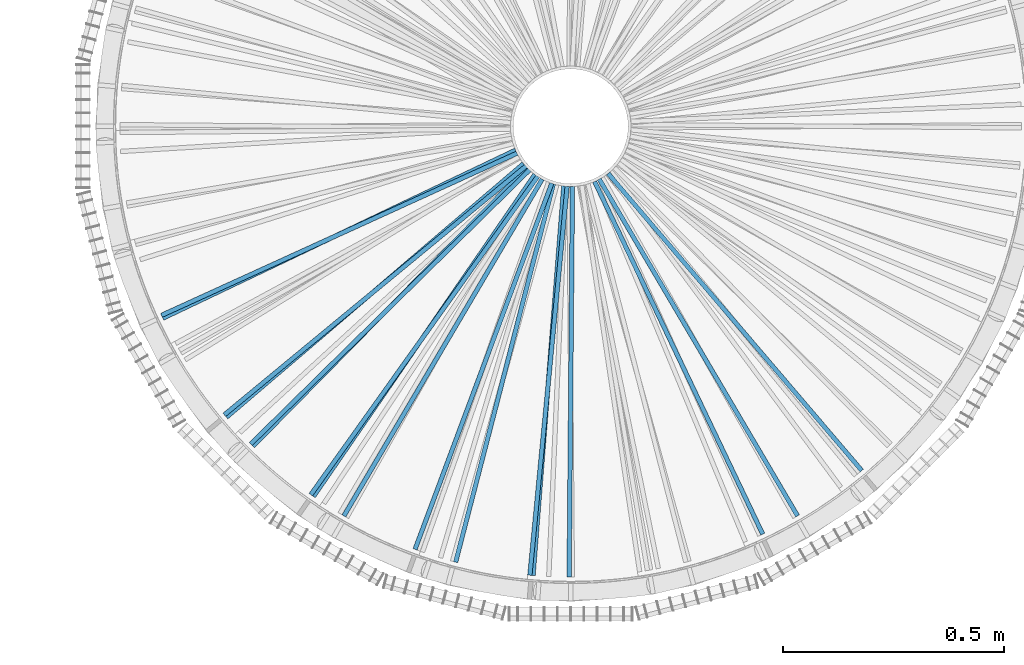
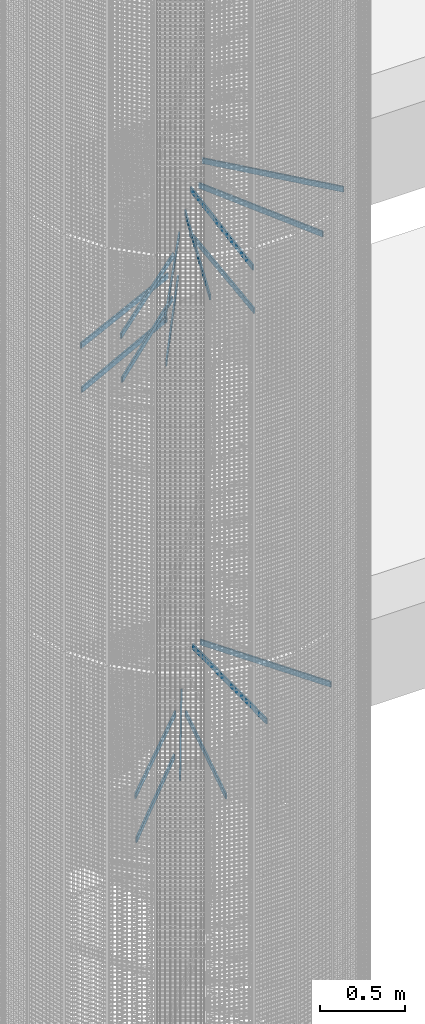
# One storey, part 177 of 1183: 17 beams, 2 elements without a shape of their own.
"""IFC2X3 building model written with IfcOpenShell, lengths in millimetres."""

import ifcopenshell
import ifcopenshell.guid

model = None  # the IFC model being written
_history = None  # IfcOwnerHistory: only IFC2X3 demands one
_inside = {}  # id of a spatial element -> (the spatial element, [elements in it])
_under = {}  # id of a project, library or spatial element -> (it, [spatial elements below it])
_declared = {}  # id of a project -> (the project, [libraries it declares])
_typed = {}  # id of a type object -> (the type object, [elements of that type])
_made_of = {}  # id of a material, layer set ... -> (it, [elements and type objects made of it])


def new_model(schema):
    """Start an empty IFC model of exactly this schema.

    Asked for "IFC4X3", IfcOpenShell would pick the latest addendum, in which some entities
    have other attributes; the version numbers below select the first issue.
    IFC2X3 requires an IfcOwnerHistory on every rooted entity: one is made here for all.
    """
    global model, _history
    if schema == "IFC4X3":
        model = ifcopenshell.file(schema_version=(4, 3, 0, 0))
    else:
        model = ifcopenshell.file(schema=schema)
    _inside.clear()
    _under.clear()
    _declared.clear()
    _typed.clear()
    _made_of.clear()
    _history = None
    if model.schema == "IFC2X3":
        org = make("IfcOrganization", Name="unknown")
        user = make(
            "IfcPersonAndOrganization",
            ThePerson=make("IfcPerson", FamilyName="unknown"),
            TheOrganization=org,
        )
        app = make(
            "IfcApplication",
            ApplicationDeveloper=org,
            Version="unknown",
            ApplicationFullName="unknown",
            ApplicationIdentifier="unknown",
        )
        _history = make(
            "IfcOwnerHistory",
            OwningUser=user,
            OwningApplication=app,
            ChangeAction="ADDED",
            CreationDate=0,
        )
    return model


def make(cls, **values):
    """One entity of the class cls with the attributes given. An attribute that is None is left unset."""
    return model.create_entity(
        cls, **{name: value for name, value in values.items() if value is not None}
    )


def rooted(cls, **values):
    """An entity with a GlobalId (a new one), such as an element, a storey or a relation."""
    return make(cls, GlobalId=ifcopenshell.guid.new(), OwnerHistory=_history, **values)


def si_unit(unit_type, name, prefix=None):
    """IfcSIUnit, for example si_unit("LENGTHUNIT", "METRE", prefix="MILLI")."""
    return make("IfcSIUnit", UnitType=unit_type, Prefix=prefix, Name=name)


def assignment(units):
    """IfcUnitAssignment: the units of a project."""
    return None if units is None else make("IfcUnitAssignment", Units=units)


def point(xyz):
    """IfcCartesianPoint."""
    return None if xyz is None else make("IfcCartesianPoint", Coordinates=xyz)


def direction(xyz):
    """IfcDirection."""
    return None if xyz is None else make("IfcDirection", DirectionRatios=xyz)


def frame(location, z_axis=None, x_axis=None):
    """IfcAxis2Placement3D, a coordinate frame: its origin and axes. An axis left out is left unset."""
    return make(
        "IfcAxis2Placement3D",
        Location=point(location),
        Axis=direction(z_axis),
        RefDirection=direction(x_axis),
    )


def frame_2d(location, x_axis=None):
    """IfcAxis2Placement2D, a coordinate frame in the plane: its origin and x axis."""
    return make(
        "IfcAxis2Placement2D", Location=point(location), RefDirection=direction(x_axis)
    )


def origin_with_axes():
    """The frame at (0, 0, 0) with the z axis (0, 0, 1) and the x axis (1, 0, 0) written out."""
    return frame((0.0, 0.0, 0.0), z_axis=(0.0, 0.0, 1.0), x_axis=(1.0, 0.0, 0.0))


def origin_2d_with_axis():
    """The frame at (0, 0) in the plane with the x axis (1, 0) written out."""
    return frame_2d((0.0, 0.0), x_axis=(1.0, 0.0))


def place(relative_to, where):
    """IfcLocalPlacement: puts the frame where relative to a parent placement (None: the world)."""
    return make(
        "IfcLocalPlacement", PlacementRelTo=relative_to, RelativePlacement=where
    )


def context(
    kind, dimensions, precision=None, world=None, true_north=None, identifier=None
):
    """IfcGeometricRepresentationContext, for example the 3D "Model" context."""
    return make(
        "IfcGeometricRepresentationContext",
        ContextIdentifier=identifier,
        ContextType=kind,
        CoordinateSpaceDimension=dimensions,
        Precision=precision,
        WorldCoordinateSystem=world,
        TrueNorth=true_north,
    )


def subcontext(parent, identifier, kind, view, scale=None):
    """IfcGeometricRepresentationSubContext, for example "Body" below "Model"."""
    return make(
        "IfcGeometricRepresentationSubContext",
        ContextIdentifier=identifier,
        ContextType=kind,
        ParentContext=parent,
        TargetScale=scale,
        TargetView=view,
    )


def project(units=None, contexts=None):
    """IfcProject with its units and contexts."""
    return rooted(
        "IfcProject",
        Name="project",
        RepresentationContexts=contexts,
        UnitsInContext=assignment(units),
    )


def spatial(cls, under=None, at=None, **own):
    """A site, building, storey or space (cls), placed at a placement, below another one or the project."""
    s = rooted(cls, ObjectPlacement=at, **own)
    if under is not None:
        _under.setdefault(under.id(), (under, []))[1].append(s)
    return s


def polyline(points):
    """IfcPolyline through the points."""
    return make("IfcPolyline", Points=[point(p) for p in points])


def profile(cls, at=None, kind="AREA", **sizes):
    """A parametric profile (cls). Its sizes go by their IFC names, for example OverallWidth=200.0."""
    return make(cls, ProfileType=kind, Position=at, **sizes)


def rectangle(**sizes):
    """IfcRectangleProfileDef."""
    return profile("IfcRectangleProfileDef", **sizes)


def outline(outer, holes=None, kind="AREA"):
    """IfcArbitraryClosedProfileDef: a profile drawn as a closed curve; with holes, ...WithVoids."""
    if holes is None:
        return make("IfcArbitraryClosedProfileDef", ProfileType=kind, OuterCurve=outer)
    return make(
        "IfcArbitraryProfileDefWithVoids",
        ProfileType=kind,
        OuterCurve=outer,
        InnerCurves=holes,
    )


def extrude(swept, where, along, depth):
    """IfcExtrudedAreaSolid: the profile swept, set in the frame where, extruded along a direction by depth."""
    return make(
        "IfcExtrudedAreaSolid",
        SweptArea=swept,
        Position=where,
        ExtrudedDirection=direction(along),
        Depth=depth,
    )


def boolean(op, a, b):
    """IfcBooleanResult of two solids."""
    return make("IfcBooleanResult", Operator=op, FirstOperand=a, SecondOperand=b)


def shape(context_of_items, identifier, shape_type, items):
    """IfcShapeRepresentation: the items that make up one representation, for example the "Body"."""
    return make(
        "IfcShapeRepresentation",
        ContextOfItems=context_of_items,
        RepresentationIdentifier=identifier,
        RepresentationType=shape_type,
        Items=items,
    )


def material(Name=None, Category=None):
    """IfcMaterial."""
    return make("IfcMaterial", Name=Name, Category=Category)


def made_of(thing, what):
    """Note that an element or type object is made of a material, layer set ...; save() writes the relation."""
    if what is not None:
        _made_of.setdefault(what.id(), (what, []))[1].append(thing)
    return thing


def type_object(cls, material=None, **own):
    """A type object (cls), such as IfcWallType, which elements share."""
    return made_of(rooted(cls, **own), material)


def element(
    cls,
    number,
    at=None,
    inside=None,
    cuts=None,
    type_object=None,
    material=None,
    context=None,
    identifier="Body",
    shape_type=None,
    held_by="IfcProductDefinitionShape",
    body=None,
    shapes=None,
    **own,
):
    """One element of the class cls, such as IfcWall. Its Tag is "e" and its number.

    at: its placement. inside: the storey or other place that contains it. cuts: it is an
    opening in that element (IfcRelVoidsElement). A single representation is given by context,
    identifier, shape_type and body (its items); several are given by shapes. held_by: the class
    of the entity that holds the representations. save() writes the other relations.
    """
    e = rooted(cls, Tag="e%d" % number, ObjectPlacement=at, **own)
    if body is not None:
        shapes = [shape(context, identifier, shape_type, body)]
    if shapes is not None:
        e.Representation = make(held_by, Representations=shapes)
    if inside is not None:
        _inside.setdefault(inside.id(), (inside, []))[1].append(e)
    if cuts is not None:
        rooted(
            "IfcRelVoidsElement", RelatingBuildingElement=cuts, RelatedOpeningElement=e
        )
    if type_object is not None:
        _typed.setdefault(type_object.id(), (type_object, []))[1].append(e)
    return made_of(e, material)


def aggregate(whole, parts):
    """IfcRelAggregates: a whole, such as a stair, and the parts it consists of."""
    return rooted("IfcRelAggregates", RelatingObject=whole, RelatedObjects=parts)


def save(model, path):
    """Write the relations noted so far, then the file.

    IfcRelAggregates (storeys below a building ...), IfcRelContainedInSpatialStructure (elements
    in a storey), IfcRelDefinesByType, IfcRelAssociatesMaterial and IfcRelDeclares: one each for
    every whole, place, type object, material and project.
    """
    for whole, parts in _under.values():
        aggregate(whole, parts)
    for where, things in _inside.values():
        rooted(
            "IfcRelContainedInSpatialStructure",
            RelatedElements=things,
            RelatingStructure=where,
        )
    for kind, things in _typed.values():
        rooted("IfcRelDefinesByType", RelatedObjects=things, RelatingType=kind)
    for what, things in _made_of.values():
        rooted("IfcRelAssociatesMaterial", RelatedObjects=things, RelatingMaterial=what)
    for by, libraries in _declared.values():
        rooted("IfcRelDeclares", RelatingContext=by, RelatedDefinitions=libraries)
    model.write(path)


model = new_model("IFC2X3")

# Units and contexts
model_context = context("Model", 3, precision=1e-05, world=origin_with_axes())
body_context = subcontext(model_context, "Body", "Model", "MODEL_VIEW")
ifc_project = project(units=[si_unit("LENGTHUNIT", "METRE", prefix="MILLI"), si_unit("AREAUNIT", "SQUARE_METRE"), si_unit("VOLUMEUNIT", "CUBIC_METRE"), si_unit("MASSUNIT", "GRAM", prefix="KILO"), si_unit("TIMEUNIT", "SECOND"), si_unit("PLANEANGLEUNIT", "RADIAN"), si_unit("SOLIDANGLEUNIT", "STERADIAN"), si_unit("THERMODYNAMICTEMPERATUREUNIT", "DEGREE_CELSIUS"), si_unit("LUMINOUSINTENSITYUNIT", "LUMEN")], contexts=[model_context])

# Site, building, storey
site_placement = place(None, origin_with_axes())
site = spatial("IfcSite", under=ifc_project, at=site_placement, Name="Undefined", CompositionType="ELEMENT")
building_placement = place(site_placement, origin_with_axes())
building = spatial("IfcBuilding", under=site, at=building_placement, Name="Undefined", CompositionType="ELEMENT")
storey_placement = place(building_placement, origin_with_axes())
storey = spatial("IfcBuildingStorey", under=building, at=storey_placement, Name="Undefined", CompositionType="ELEMENT", Elevation=0.0)

# Assembly, beams
assembly_1_placement = place(storey_placement, origin_with_axes())
assembly_1 = element("IfcElementAssembly", 1, at=assembly_1_placement, inside=storey, Name="POTEAU", AssemblyPlace="NOTDEFINED", PredefinedType="NOTDEFINED")
ifc_material = material(Name="STEEL/S235JR")
beam_type = type_object("IfcBeamType", Name="PL10*40", PredefinedType="NOTDEFINED")
beam_1_placement = place(assembly_1_placement, frame((-51.6645395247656, -66.30664743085, 11161.64), z_axis=(0.0, 0.0, 1.0), x_axis=(-0.566618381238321, -0.823980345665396, 0.0)))
beam_1 = element("IfcBeam", 2, at=beam_1_placement, type_object=beam_type, material=ifc_material, Name="RAIDISSEUR", context=body_context, shape_type="CSG", body=[
    boolean("DIFFERENCE", extrude(rectangle(XDim=10.0, YDim=40.0, at=origin_2d_with_axis()), frame((935.982964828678, -2.59787459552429e-14, -3.63797880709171e-12), z_axis=(-1.0, 0.0, 0.0), x_axis=(0.0, -1.0, 0.0)), (0.0, 0.0, 1.0), 935.98), extrude(outline(polyline([(0.0, 0.0), (30.5663019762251, -4.91127138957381e-11), (60.366242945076, 6.80164206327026), (87.9055294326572, 20.0638634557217), (111.803226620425, 39.1216410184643), (130.861004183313, 63.0193382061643), (144.123225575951, 90.5586246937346), (150.9248676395, 120.358565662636), (150.924867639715, 150.924867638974), (144.123225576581, 180.724808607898), (130.86100418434, 208.264095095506), (111.803226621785, 232.161792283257), (87.9055294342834, 251.219569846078), (60.3662429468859, 264.481791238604), (30.5663019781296, 271.283433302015), (1.90266291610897e-09, 271.28343330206), (-29.7999409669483, 264.481791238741), (-57.3392274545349, 251.219569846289), (-81.2369246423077, 232.161792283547), (-100.294702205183, 208.26409509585), (-113.556923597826, 180.724808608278), (-120.35856566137, 150.92486763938), (-120.358565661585, 120.358565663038), (-113.556923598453, 90.5586246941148), (-100.294702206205, 63.0193382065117), (-81.2369246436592, 39.1216410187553), (-57.3392274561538, 20.0638634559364), (-29.7999409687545, 6.80164206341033), (0.0, 0.0)])), frame((-9.39412063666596, -109.366583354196, -22.5), z_axis=(0.0, 0.0, 1.0), x_axis=(0.771460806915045, 0.636276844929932, 0.0)), (0.0, 0.0, 1.0), 45.0)),
])
beam_2_placement = place(assembly_1_placement, frame((-67.065536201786, -50.6755364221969, 11005.12), z_axis=(0.0, 0.0, 1.0), x_axis=(-0.760573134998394, -0.649252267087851, 0.0)))
beam_2 = element("IfcBeam", 3, at=beam_2_placement, type_object=beam_type, material=ifc_material, Name="RAIDISSEUR", context=body_context, shape_type="CSG", body=[
    boolean("DIFFERENCE", extrude(rectangle(XDim=10.0, YDim=40.0, at=origin_2d_with_axis()), frame((935.982964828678, -2.59787459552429e-14, -3.63797880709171e-12), z_axis=(-1.0, 0.0, 0.0), x_axis=(0.0, -1.0, 0.0)), (0.0, 0.0, 1.0), 935.98), extrude(outline(polyline([(0.0, 0.0), (30.5663019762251, -4.91127138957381e-11), (60.366242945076, 6.80164206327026), (87.9055294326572, 20.0638634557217), (111.803226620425, 39.1216410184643), (130.861004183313, 63.0193382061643), (144.123225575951, 90.5586246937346), (150.9248676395, 120.358565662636), (150.924867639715, 150.924867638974), (144.123225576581, 180.724808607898), (130.86100418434, 208.264095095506), (111.803226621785, 232.161792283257), (87.9055294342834, 251.219569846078), (60.3662429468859, 264.481791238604), (30.5663019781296, 271.283433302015), (1.90266291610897e-09, 271.28343330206), (-29.7999409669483, 264.481791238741), (-57.3392274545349, 251.219569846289), (-81.2369246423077, 232.161792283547), (-100.294702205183, 208.26409509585), (-113.556923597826, 180.724808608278), (-120.35856566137, 150.92486763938), (-120.358565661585, 120.358565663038), (-113.556923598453, 90.5586246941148), (-100.294702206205, 63.0193382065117), (-81.2369246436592, 39.1216410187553), (-57.3392274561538, 20.0638634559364), (-29.7999409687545, 6.80164206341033), (0.0, 0.0)])), frame((17.6670809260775, -86.1836496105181, -22.5), z_axis=(0.0, 0.0, 1.0), x_axis=(0.580493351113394, 0.814264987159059, 0.0)), (0.0, 0.0, 1.0), 45.0)),
])
beam_3_placement = place(assembly_1_placement, frame((-77.8961274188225, -31.5909713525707, 10848.6), z_axis=(0.0, 0.0, 1.0), x_axis=(-0.902696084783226, -0.430278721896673, 0.0)))
beam_3 = element("IfcBeam", 4, at=beam_3_placement, type_object=beam_type, material=ifc_material, Name="RAIDISSEUR", context=body_context, shape_type="CSG", body=[
    boolean("DIFFERENCE", extrude(rectangle(XDim=10.0, YDim=40.0, at=origin_2d_with_axis()), frame((935.982964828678, -2.59787459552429e-14, -3.63797880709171e-12), z_axis=(-1.0, 0.0, 0.0), x_axis=(0.0, -1.0, 0.0)), (0.0, 0.0, 1.0), 935.98), extrude(outline(polyline([(0.0, 0.0), (30.5663019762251, -4.91127138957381e-11), (60.366242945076, 6.80164206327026), (87.9055294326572, 20.0638634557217), (111.803226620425, 39.1216410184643), (130.861004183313, 63.0193382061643), (144.123225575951, 90.5586246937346), (150.9248676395, 120.358565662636), (150.924867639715, 150.924867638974), (144.123225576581, 180.724808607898), (130.86100418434, 208.264095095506), (111.803226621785, 232.161792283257), (87.9055294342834, 251.219569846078), (60.3662429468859, 264.481791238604), (30.5663019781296, 271.283433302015), (1.90266291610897e-09, 271.28343330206), (-29.7999409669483, 264.481791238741), (-57.3392274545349, 251.219569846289), (-81.2369246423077, 232.161792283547), (-100.294702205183, 208.26409509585), (-113.556923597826, 180.724808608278), (-120.35856566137, 150.92486763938), (-120.358565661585, 120.358565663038), (-113.556923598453, 90.5586246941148), (-100.294702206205, 63.0193382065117), (-81.2369246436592, 39.1216410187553), (-57.3392274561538, 20.0638634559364), (-29.7999409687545, 6.80164206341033), (0.0, 0.0)])), frame((37.8060096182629, -56.7867008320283, -22.5), z_axis=(0.0, 0.0, 1.0), x_axis=(0.349966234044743, 0.936762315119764, 0.0)), (0.0, 0.0, 1.0), 45.0)),
])
beam_4_placement = place(assembly_1_placement, frame((-74.2707535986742, -39.365610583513, 11161.64), z_axis=(0.0, 0.0, 1.0), x_axis=(-0.909854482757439, -0.414927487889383, 0.0)))
beam_4 = element("IfcBeam", 5, at=beam_4_placement, type_object=beam_type, material=ifc_material, Name="RAIDISSEUR", context=body_context, shape_type="CSG", body=[
    boolean("DIFFERENCE", extrude(rectangle(XDim=10.0, YDim=40.0, at=origin_2d_with_axis()), frame((935.982964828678, -2.59787459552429e-14, -3.63797880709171e-12), z_axis=(-1.0, 0.0, 0.0), x_axis=(0.0, -1.0, 0.0)), (0.0, 0.0, 1.0), 935.98), extrude(outline(polyline([(0.0, 0.0), (30.5663019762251, -4.91127138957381e-11), (60.366242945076, 6.80164206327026), (87.9055294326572, 20.0638634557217), (111.803226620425, 39.1216410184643), (130.861004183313, 63.0193382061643), (144.123225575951, 90.5586246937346), (150.9248676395, 120.358565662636), (150.924867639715, 150.924867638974), (144.123225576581, 180.724808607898), (130.86100418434, 208.264095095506), (111.803226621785, 232.161792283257), (87.9055294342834, 251.219569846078), (60.3662429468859, 264.481791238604), (30.5663019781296, 271.283433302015), (1.90266291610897e-09, 271.28343330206), (-29.7999409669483, 264.481791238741), (-57.3392274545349, 251.219569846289), (-81.2369246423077, 232.161792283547), (-100.294702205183, 208.26409509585), (-113.556923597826, 180.724808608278), (-120.35856566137, 150.92486763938), (-120.358565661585, 120.358565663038), (-113.556923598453, 90.5586246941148), (-100.294702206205, 63.0193382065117), (-81.2369246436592, 39.1216410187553), (-57.3392274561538, 20.0638634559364), (-29.7999409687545, 6.80164206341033), (0.0, 0.0)])), frame((38.8350681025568, -64.7162690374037, -22.5), z_axis=(0.0, 0.0, 1.0), x_axis=(0.334049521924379, 0.942555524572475, 0.0)), (0.0, 0.0, 1.0), 45.0)),
])
beam_5_placement = place(assembly_1_placement, frame((-24.6816633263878, -80.3530437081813, 11631.2), z_axis=(0.0, 0.0, 1.0), x_axis=(-0.349966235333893, -0.936762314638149, 0.0)))
beam_5 = element("IfcBeam", 6, at=beam_5_placement, type_object=beam_type, material=ifc_material, Name="RAIDISSEUR", context=body_context, shape_type="CSG", body=[
    boolean("DIFFERENCE", extrude(rectangle(XDim=10.0, YDim=40.0, at=origin_2d_with_axis()), frame((935.982964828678, -2.59787459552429e-14, -3.63797880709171e-12), z_axis=(-1.0, 0.0, 0.0), x_axis=(0.0, -1.0, 0.0)), (0.0, 0.0, 1.0), 935.98), extrude(outline(polyline([(0.0, 0.0), (30.5663019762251, -4.91127138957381e-11), (60.366242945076, 6.80164206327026), (87.9055294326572, 20.0638634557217), (111.803226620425, 39.1216410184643), (130.861004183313, 63.0193382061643), (144.123225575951, 90.5586246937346), (150.9248676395, 120.358565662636), (150.924867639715, 150.924867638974), (144.123225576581, 180.724808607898), (130.86100418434, 208.264095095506), (111.803226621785, 232.161792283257), (87.9055294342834, 251.219569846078), (60.3662429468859, 264.481791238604), (30.5663019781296, 271.283433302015), (1.90266291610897e-09, 271.28343330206), (-29.7999409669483, 264.481791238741), (-57.3392274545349, 251.219569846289), (-81.2369246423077, 232.161792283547), (-100.294702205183, 208.26409509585), (-113.556923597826, 180.724808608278), (-120.35856566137, 150.92486763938), (-120.358565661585, 120.358565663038), (-113.556923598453, 90.5586246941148), (-100.294702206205, 63.0193382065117), (-81.2369246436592, 39.1216410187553), (-57.3392274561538, 20.0638634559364), (-29.7999409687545, 6.80164206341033), (0.0, 0.0)])), frame((-39.3417482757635, -134.019261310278, -22.5), z_axis=(0.0, 0.0, 1.0), x_axis=(0.902696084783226, 0.430278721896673, 0.0)), (0.0, 0.0, 1.0), 45.0)),
])
beam_6_placement = place(assembly_1_placement, frame((-11.5894799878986, -83.255510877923, 11474.68), z_axis=(0.0, 0.0, 1.0), x_axis=(-0.0787157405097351, -0.996897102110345, 0.0)))
beam_6 = element("IfcBeam", 7, at=beam_6_placement, type_object=beam_type, material=ifc_material, Name="RAIDISSEUR", context=body_context, shape_type="CSG", body=[
    boolean("DIFFERENCE", extrude(rectangle(XDim=10.0, YDim=40.0, at=origin_2d_with_axis()), frame((935.982964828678, -2.59787459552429e-14, -3.63797880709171e-12), z_axis=(-1.0, 0.0, 0.0), x_axis=(0.0, -1.0, 0.0)), (0.0, 0.0, 1.0), 935.98), extrude(outline(polyline([(0.0, 0.0), (30.5663019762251, -4.91127138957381e-11), (60.366242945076, 6.80164206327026), (87.9055294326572, 20.0638634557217), (111.803226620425, 39.1216410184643), (130.861004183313, 63.0193382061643), (144.123225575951, 90.5586246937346), (150.9248676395, 120.358565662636), (150.924867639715, 150.924867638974), (144.123225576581, 180.724808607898), (130.86100418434, 208.264095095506), (111.803226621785, 232.161792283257), (87.9055294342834, 251.219569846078), (60.3662429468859, 264.481791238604), (30.5663019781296, 271.283433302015), (1.90266291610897e-09, 271.28343330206), (-29.7999409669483, 264.481791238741), (-57.3392274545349, 251.219569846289), (-81.2369246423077, 232.161792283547), (-100.294702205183, 208.26409509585), (-113.556923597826, 180.724808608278), (-120.35856566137, 150.92486763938), (-120.358565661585, 120.358565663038), (-113.556923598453, 90.5586246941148), (-100.294702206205, 63.0193382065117), (-81.2369246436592, 39.1216410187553), (-57.3392274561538, 20.0638634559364), (-29.7999409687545, 6.80164206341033), (0.0, 0.0)])), frame((-76.5605737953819, -131.302032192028, -22.5000000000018), z_axis=(0.0, 0.0, 1.0), x_axis=(0.986243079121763, 0.165301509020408, 0.0)), (0.0, 0.0, 1.0), 45.0)),
])
beam_7_placement = place(assembly_1_placement, frame((-3.04375799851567, -84.0031646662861, 11787.72), z_axis=(0.0, 0.0, 1.0), x_axis=(-0.0955894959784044, -0.995420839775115, 0.0)))
beam_7 = element("IfcBeam", 8, at=beam_7_placement, type_object=beam_type, material=ifc_material, Name="RAIDISSEUR", context=body_context, shape_type="CSG", body=[
    boolean("DIFFERENCE", extrude(rectangle(XDim=10.0, YDim=40.0, at=origin_2d_with_axis()), frame((935.982964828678, -2.59787459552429e-14, -3.63797880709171e-12), z_axis=(-1.0, 0.0, 0.0), x_axis=(0.0, -1.0, 0.0)), (0.0, 0.0, 1.0), 935.98), extrude(outline(polyline([(0.0, 0.0), (30.5663019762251, -4.91127138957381e-11), (60.366242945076, 6.80164206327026), (87.9055294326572, 20.0638634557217), (111.803226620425, 39.1216410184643), (130.861004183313, 63.0193382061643), (144.123225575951, 90.5586246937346), (150.9248676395, 120.358565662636), (150.924867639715, 150.924867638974), (144.123225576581, 180.724808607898), (130.86100418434, 208.264095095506), (111.803226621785, 232.161792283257), (87.9055294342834, 251.219569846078), (60.3662429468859, 264.481791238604), (30.5663019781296, 271.283433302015), (1.90266291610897e-09, 271.28343330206), (-29.7999409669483, 264.481791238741), (-57.3392274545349, 251.219569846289), (-81.2369246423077, 232.161792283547), (-100.294702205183, 208.26409509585), (-113.556923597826, 180.724808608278), (-120.35856566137, 150.92486763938), (-120.358565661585, 120.358565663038), (-113.556923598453, 90.5586246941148), (-100.294702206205, 63.0193382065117), (-81.2369246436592, 39.1216410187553), (-57.3392274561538, 20.0638634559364), (-29.7999409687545, 6.80164206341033), (0.0, 0.0)])), frame((-74.2529979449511, -141.15800711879, -22.5), z_axis=(0.0, 0.0, 1.0), x_axis=(0.983301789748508, 0.181982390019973, 0.0)), (0.0, 0.0, 1.0), 45.0)),
])
beam_8_placement = place(assembly_1_placement, frame((-61.5514692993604, -57.2469454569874, 11318.16), z_axis=(0.0, 0.0, 1.0), x_axis=(-0.771460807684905, -0.636276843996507, 0.0)))
beam_8 = element("IfcBeam", 9, at=beam_8_placement, type_object=beam_type, material=ifc_material, Name="RAIDISSEUR", context=body_context, shape_type="CSG", body=[
    boolean("DIFFERENCE", extrude(rectangle(XDim=10.0, YDim=40.0, at=origin_2d_with_axis()), frame((935.982964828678, -2.59787459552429e-14, -3.63797880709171e-12), z_axis=(-1.0, 0.0, 0.0), x_axis=(0.0, -1.0, 0.0)), (0.0, 0.0, 1.0), 935.98), extrude(outline(polyline([(0.0, 0.0), (30.5663019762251, -4.91127138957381e-11), (60.366242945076, 6.80164206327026), (87.9055294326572, 20.0638634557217), (111.803226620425, 39.1216410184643), (130.861004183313, 63.0193382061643), (144.123225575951, 90.5586246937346), (150.9248676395, 120.358565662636), (150.924867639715, 150.924867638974), (144.123225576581, 180.724808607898), (130.86100418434, 208.264095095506), (111.803226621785, 232.161792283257), (87.9055294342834, 251.219569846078), (60.3662429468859, 264.481791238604), (30.5663019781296, 271.283433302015), (1.90266291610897e-09, 271.28343330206), (-29.7999409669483, 264.481791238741), (-57.3392274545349, 251.219569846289), (-81.2369246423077, 232.161792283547), (-100.294702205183, 208.26409509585), (-113.556923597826, 180.724808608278), (-120.35856566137, 150.92486763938), (-120.358565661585, 120.358565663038), (-113.556923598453, 90.5586246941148), (-100.294702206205, 63.0193382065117), (-81.2369246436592, 39.1216410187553), (-57.3392274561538, 20.0638634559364), (-29.7999409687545, 6.80164206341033), (0.0, 0.0)])), frame((19.1969422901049, -94.4501059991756, -22.4999999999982), z_axis=(0.0, 0.0, 1.0), x_axis=(0.566618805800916, 0.823980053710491, 0.0)), (0.0, 0.0, 1.0), 45.0)),
])
beam_9_placement = place(assembly_1_placement, frame((-44.6375540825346, -71.2269955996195, 11474.68), z_axis=(0.0, 0.0, 1.0), x_axis=(-0.580493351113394, -0.814264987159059, 0.0)))
beam_9 = element("IfcBeam", 10, at=beam_9_placement, type_object=beam_type, material=ifc_material, Name="RAIDISSEUR", context=body_context, shape_type="CSG", body=[
    boolean("DIFFERENCE", extrude(rectangle(XDim=10.0, YDim=40.0, at=origin_2d_with_axis()), frame((935.982964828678, -2.59787459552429e-14, -3.63797880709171e-12), z_axis=(-1.0, 0.0, 0.0), x_axis=(0.0, -1.0, 0.0)), (0.0, 0.0, 1.0), 935.98), extrude(outline(polyline([(0.0, 0.0), (30.5663019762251, -4.91127138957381e-11), (60.366242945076, 6.80164206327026), (87.9055294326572, 20.0638634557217), (111.803226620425, 39.1216410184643), (130.861004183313, 63.0193382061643), (144.123225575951, 90.5586246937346), (150.9248676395, 120.358565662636), (150.924867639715, 150.924867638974), (144.123225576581, 180.724808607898), (130.86100418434, 208.264095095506), (111.803226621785, 232.161792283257), (87.9055294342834, 251.219569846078), (60.3662429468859, 264.481791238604), (30.5663019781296, 271.283433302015), (1.90266291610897e-09, 271.28343330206), (-29.7999409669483, 264.481791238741), (-57.3392274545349, 251.219569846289), (-81.2369246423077, 232.161792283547), (-100.294702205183, 208.26409509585), (-113.556923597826, 180.724808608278), (-120.35856566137, 150.92486763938), (-120.358565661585, 120.358565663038), (-113.556923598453, 90.5586246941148), (-100.294702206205, 63.0193382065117), (-81.2369246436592, 39.1216410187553), (-57.3392274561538, 20.0638634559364), (-29.7999409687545, 6.80164206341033), (0.0, 0.0)])), frame((-7.46771402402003, -118.088066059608, -22.5), z_axis=(0.0, 0.0, 1.0), x_axis=(0.760573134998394, 0.649252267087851, 0.0)), (0.0, 0.0, 1.0), 45.0)),
])
beam_10_placement = place(assembly_1_placement, frame((31.5909713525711, -77.8961274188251, 11787.72), z_axis=(0.0, 0.0, 1.0), x_axis=(0.430278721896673, -0.902696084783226, 0.0)))
beam_10 = element("IfcBeam", 11, at=beam_10_placement, type_object=beam_type, material=ifc_material, Name="RAIDISSEUR", context=body_context, shape_type="CSG", body=[
    boolean("DIFFERENCE", extrude(rectangle(XDim=10.0, YDim=40.0, at=origin_2d_with_axis()), frame((935.982964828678, -2.59787459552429e-14, -3.63797880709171e-12), z_axis=(-1.0, 0.0, 0.0), x_axis=(0.0, -1.0, 0.0)), (0.0, 0.0, 1.0), 935.98), extrude(outline(polyline([(0.0, 0.0), (30.5663019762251, -4.91127138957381e-11), (60.366242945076, 6.80164206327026), (87.9055294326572, 20.0638634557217), (111.803226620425, 39.1216410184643), (130.861004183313, 63.0193382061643), (144.123225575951, 90.5586246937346), (150.9248676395, 120.358565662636), (150.924867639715, 150.924867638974), (144.123225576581, 180.724808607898), (130.86100418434, 208.264095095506), (111.803226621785, 232.161792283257), (87.9055294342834, 251.219569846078), (60.3662429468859, 264.481791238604), (30.5663019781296, 271.283433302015), (1.90266291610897e-09, 271.28343330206), (-29.7999409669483, 264.481791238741), (-57.3392274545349, 251.219569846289), (-81.2369246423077, 232.161792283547), (-100.294702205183, 208.26409509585), (-113.556923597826, 180.724808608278), (-120.35856566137, 150.92486763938), (-120.358565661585, 120.358565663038), (-113.556923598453, 90.5586246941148), (-100.294702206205, 63.0193382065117), (-81.2369246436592, 39.1216410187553), (-57.3392274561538, 20.0638634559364), (-29.7999409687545, 6.80164206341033), (0.0, 0.0)])), frame((-145.696152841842, -116.715461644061, -22.5), z_axis=(0.0, 0.0, 1.0), x_axis=(0.936762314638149, -0.349966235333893, 0.0)), (0.0, 0.0, 1.0), 45.0)),
])
beam_11_placement = place(assembly_1_placement, frame((50.6755364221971, -67.0655362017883, 11944.24), z_axis=(0.0, 0.0, 1.0), x_axis=(0.649252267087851, -0.760573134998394, 0.0)))
beam_11 = element("IfcBeam", 12, at=beam_11_placement, type_object=beam_type, material=ifc_material, Name="RAIDISSEUR", context=body_context, shape_type="CSG", body=[
    boolean("DIFFERENCE", extrude(rectangle(XDim=10.0, YDim=40.0, at=origin_2d_with_axis()), frame((935.982964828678, -2.59787459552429e-14, -3.63797880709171e-12), z_axis=(-1.0, 0.0, 0.0), x_axis=(0.0, -1.0, 0.0)), (0.0, 0.0, 1.0), 935.98), extrude(outline(polyline([(0.0, 0.0), (30.5663019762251, -4.91127138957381e-11), (60.366242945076, 6.80164206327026), (87.9055294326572, 20.0638634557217), (111.803226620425, 39.1216410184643), (130.861004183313, 63.0193382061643), (144.123225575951, 90.5586246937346), (150.9248676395, 120.358565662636), (150.924867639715, 150.924867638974), (144.123225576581, 180.724808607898), (130.86100418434, 208.264095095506), (111.803226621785, 232.161792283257), (87.9055294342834, 251.219569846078), (60.3662429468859, 264.481791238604), (30.5663019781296, 271.283433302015), (1.90266291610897e-09, 271.28343330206), (-29.7999409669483, 264.481791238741), (-57.3392274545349, 251.219569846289), (-81.2369246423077, 232.161792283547), (-100.294702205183, 208.26409509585), (-113.556923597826, 180.724808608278), (-120.35856566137, 150.92486763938), (-120.358565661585, 120.358565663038), (-113.556923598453, 90.5586246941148), (-100.294702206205, 63.0193382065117), (-81.2369246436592, 39.1216410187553), (-57.3392274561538, 20.0638634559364), (-29.7999409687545, 6.80164206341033), (0.0, 0.0)])), frame((-175.093101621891, -96.5765329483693, -22.5000000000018), z_axis=(0.0, 0.0, 1.0), x_axis=(0.814264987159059, -0.580493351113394, 0.0)), (0.0, 0.0, 1.0), 45.0)),
])
aggregate(assembly_1, [beam_1, beam_2, beam_3, beam_4, beam_5, beam_6, beam_7, beam_8, beam_9, beam_10, beam_11])

assembly_2_placement = place(storey_placement, origin_with_axes())
assembly_2 = element("IfcElementAssembly", 13, at=assembly_2_placement, inside=storey, Name="POTEAU", AssemblyPlace="NOTDEFINED", PredefinedType="NOTDEFINED")
beam_12_placement = place(assembly_2_placement, frame((38.2598530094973, -74.8463745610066, 8500.76000000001), z_axis=(0.0, 0.0, 1.0), x_axis=(0.507316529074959, -0.861759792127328, 0.0)))
beam_12 = element("IfcBeam", 14, at=beam_12_placement, type_object=beam_type, material=ifc_material, Name="RAIDISSEUR", context=body_context, shape_type="CSG", body=[
    boolean("DIFFERENCE", extrude(rectangle(XDim=10.0, YDim=40.0, at=origin_2d_with_axis()), frame((935.982964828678, -2.59787459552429e-14, -3.63797880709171e-12), z_axis=(-1.0, 0.0, 0.0), x_axis=(0.0, -1.0, 0.0)), (0.0, 0.0, 1.0), 935.98), extrude(outline(polyline([(0.0, 0.0), (30.5663019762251, -4.91127138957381e-11), (60.366242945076, 6.80164206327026), (87.9055294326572, 20.0638634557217), (111.803226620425, 39.1216410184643), (130.861004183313, 63.0193382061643), (144.123225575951, 90.5586246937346), (150.9248676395, 120.358565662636), (150.924867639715, 150.924867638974), (144.123225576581, 180.724808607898), (130.86100418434, 208.264095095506), (111.803226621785, 232.161792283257), (87.9055294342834, 251.219569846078), (60.3662429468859, 264.481791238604), (30.5663019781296, 271.283433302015), (1.90266291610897e-09, 271.28343330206), (-29.7999409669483, 264.481791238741), (-57.3392274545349, 251.219569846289), (-81.2369246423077, 232.161792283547), (-100.294702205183, 208.26409509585), (-113.556923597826, 180.724808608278), (-120.35856566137, 150.92486763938), (-120.358565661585, 120.358565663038), (-113.556923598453, 90.5586246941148), (-100.294702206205, 63.0193382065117), (-81.2369246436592, 39.1216410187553), (-57.3392274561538, 20.0638634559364), (-29.7999409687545, 6.80164206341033), (0.0, 0.0)])), frame((-156.069237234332, -110.867231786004, -22.5), z_axis=(0.0, 0.0, 1.0), x_axis=(0.902696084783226, -0.430278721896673, 0.0)), (0.0, 0.0, 1.0), 45.0)),
])
beam_13_placement = place(assembly_2_placement, frame((-62.3936675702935, -56.3278473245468, 7718.16), z_axis=(0.0, 0.0, 1.0), x_axis=(-0.701092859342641, -0.713069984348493, 0.0)))
beam_13 = element("IfcBeam", 15, at=beam_13_placement, type_object=beam_type, material=ifc_material, Name="RAIDISSEUR", context=body_context, shape_type="CSG", body=[
    boolean("DIFFERENCE", extrude(rectangle(XDim=10.0, YDim=40.0, at=origin_2d_with_axis()), frame((935.982964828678, -2.59787459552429e-14, -3.63797880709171e-12), z_axis=(-1.0, 0.0, 0.0), x_axis=(0.0, -1.0, 0.0)), (0.0, 0.0, 1.0), 935.98), extrude(outline(polyline([(0.0, 0.0), (30.5663019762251, -4.91127138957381e-11), (60.366242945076, 6.80164206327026), (87.9055294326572, 20.0638634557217), (111.803226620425, 39.1216410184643), (130.861004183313, 63.0193382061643), (144.123225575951, 90.5586246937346), (150.9248676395, 120.358565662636), (150.924867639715, 150.924867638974), (144.123225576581, 180.724808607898), (130.86100418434, 208.264095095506), (111.803226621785, 232.161792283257), (87.9055294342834, 251.219569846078), (60.3662429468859, 264.481791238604), (30.5663019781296, 271.283433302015), (1.90266291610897e-09, 271.28343330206), (-29.7999409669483, 264.481791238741), (-57.3392274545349, 251.219569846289), (-81.2369246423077, 232.161792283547), (-100.294702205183, 208.26409509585), (-113.556923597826, 180.724808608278), (-120.35856566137, 150.92486763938), (-120.358565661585, 120.358565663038), (-113.556923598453, 90.5586246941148), (-100.294702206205, 63.0193382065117), (-81.2369246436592, 39.1216410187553), (-57.3392274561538, 20.0638634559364), (-29.7999409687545, 6.80164206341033), (0.0, 0.0)])), frame((9.33337282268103, -94.6896464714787, -22.5), z_axis=(0.0, 0.0, 1.0), x_axis=(0.649252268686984, 0.760573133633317, 0.0)), (0.0, 0.0, 1.0), 45.0)),
])
beam_14_placement = place(assembly_2_placement, frame((-56.3278473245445, -62.3936675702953, 8031.2), z_axis=(0.0, 0.0, 1.0), x_axis=(-0.713069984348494, -0.70109285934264, 0.0)))
beam_14 = element("IfcBeam", 16, at=beam_14_placement, type_object=beam_type, material=ifc_material, Name="RAIDISSEUR", context=body_context, shape_type="CSG", body=[
    boolean("DIFFERENCE", extrude(rectangle(XDim=10.0, YDim=40.0, at=origin_2d_with_axis()), frame((935.982964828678, -2.59787459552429e-14, -3.63797880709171e-12), z_axis=(-1.0, 0.0, 0.0), x_axis=(0.0, -1.0, 0.0)), (0.0, 0.0, 1.0), 935.98), extrude(outline(polyline([(0.0, 0.0), (30.5663019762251, -4.91127138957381e-11), (60.366242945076, 6.80164206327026), (87.9055294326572, 20.0638634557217), (111.803226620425, 39.1216410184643), (130.861004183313, 63.0193382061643), (144.123225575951, 90.5586246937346), (150.9248676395, 120.358565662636), (150.924867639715, 150.924867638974), (144.123225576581, 180.724808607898), (130.86100418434, 208.264095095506), (111.803226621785, 232.161792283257), (87.9055294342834, 251.219569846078), (60.3662429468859, 264.481791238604), (30.5663019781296, 271.283433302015), (1.90266291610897e-09, 271.28343330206), (-29.7999409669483, 264.481791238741), (-57.3392274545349, 251.219569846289), (-81.2369246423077, 232.161792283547), (-100.294702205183, 208.26409509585), (-113.556923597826, 180.724808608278), (-120.35856566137, 150.92486763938), (-120.358565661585, 120.358565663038), (-113.556923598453, 90.5586246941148), (-100.294702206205, 63.0193382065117), (-81.2369246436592, 39.1216410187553), (-57.3392274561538, 20.0638634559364), (-29.7999409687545, 6.80164206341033), (0.0, 0.0)])), frame((11.0085008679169, -103.09603572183, -22.4999999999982), z_axis=(0.0, 0.0, 1.0), x_axis=(0.636276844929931, 0.771460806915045, 0.0)), (0.0, 0.0, 1.0), 45.0)),
])
beam_15_placement = place(assembly_2_placement, frame((-25.8705774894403, -79.9781805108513, 8031.2), z_axis=(0.0, 0.0, 1.0), x_axis=(-0.250629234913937, -0.968083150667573, 0.0)))
beam_15 = element("IfcBeam", 17, at=beam_15_placement, type_object=beam_type, material=ifc_material, Name="RAIDISSEUR", context=body_context, shape_type="CSG", body=[
    boolean("DIFFERENCE", extrude(rectangle(XDim=10.0, YDim=40.0, at=origin_2d_with_axis()), frame((935.982964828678, -2.59787459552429e-14, -3.63797880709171e-12), z_axis=(-1.0, 0.0, 0.0), x_axis=(0.0, -1.0, 0.0)), (0.0, 0.0, 1.0), 935.98), extrude(outline(polyline([(0.0, 0.0), (30.5663019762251, -4.91127138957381e-11), (60.366242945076, 6.80164206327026), (87.9055294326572, 20.0638634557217), (111.803226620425, 39.1216410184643), (130.861004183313, 63.0193382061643), (144.123225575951, 90.5586246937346), (150.9248676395, 120.358565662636), (150.924867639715, 150.924867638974), (144.123225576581, 180.724808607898), (130.86100418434, 208.264095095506), (111.803226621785, 232.161792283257), (87.9055294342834, 251.219569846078), (60.3662429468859, 264.481791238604), (30.5663019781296, 271.283433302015), (1.90266291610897e-09, 271.28343330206), (-29.7999409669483, 264.481791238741), (-57.3392274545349, 251.219569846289), (-81.2369246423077, 232.161792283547), (-100.294702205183, 208.26409509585), (-113.556923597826, 180.724808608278), (-120.35856566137, 150.92486763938), (-120.358565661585, 120.358565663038), (-113.556923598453, 90.5586246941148), (-100.294702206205, 63.0193382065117), (-81.2369246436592, 39.1216410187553), (-57.3392274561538, 20.0638634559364), (-29.7999409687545, 6.80164206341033), (0.0, 0.0)])), frame((-53.0036201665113, -127.955178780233, -22.5), z_axis=(0.0, 0.0, 1.0), x_axis=(0.942555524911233, 0.33404952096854, 0.0)), (0.0, 0.0, 1.0), 45.0)),
])
beam_16_placement = place(assembly_2_placement, frame((-38.2598530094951, -74.8463745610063, 8187.72), z_axis=(0.0, 0.0, 1.0), x_axis=(-0.50731652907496, -0.861759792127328, 0.0)))
beam_16 = element("IfcBeam", 18, at=beam_16_placement, type_object=beam_type, material=ifc_material, Name="RAIDISSEUR", context=body_context, shape_type="CSG", body=[
    boolean("DIFFERENCE", extrude(rectangle(XDim=10.0, YDim=40.0, at=origin_2d_with_axis()), frame((935.982964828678, -2.59787459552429e-14, -3.63797880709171e-12), z_axis=(-1.0, 0.0, 0.0), x_axis=(0.0, -1.0, 0.0)), (0.0, 0.0, 1.0), 935.98), extrude(outline(polyline([(0.0, 0.0), (30.5663019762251, -4.91127138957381e-11), (60.366242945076, 6.80164206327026), (87.9055294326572, 20.0638634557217), (111.803226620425, 39.1216410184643), (130.861004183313, 63.0193382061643), (144.123225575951, 90.5586246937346), (150.9248676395, 120.358565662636), (150.924867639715, 150.924867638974), (144.123225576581, 180.724808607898), (130.86100418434, 208.264095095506), (111.803226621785, 232.161792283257), (87.9055294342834, 251.219569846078), (60.3662429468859, 264.481791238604), (30.5663019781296, 271.283433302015), (1.90266291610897e-09, 271.28343330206), (-29.7999409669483, 264.481791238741), (-57.3392274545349, 251.219569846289), (-81.2369246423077, 232.161792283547), (-100.294702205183, 208.26409509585), (-113.556923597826, 180.724808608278), (-120.35856566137, 150.92486763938), (-120.358565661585, 120.358565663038), (-113.556923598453, 90.5586246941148), (-100.294702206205, 63.0193382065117), (-81.2369246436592, 39.1216410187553), (-57.3392274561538, 20.0638634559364), (-29.7999409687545, 6.80164206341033), (0.0, 0.0)])), frame((-17.6148722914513, -124.320068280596, -22.5), z_axis=(0.0, 0.0, 1.0), x_axis=(0.814264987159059, 0.580493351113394, 0.0)), (0.0, 0.0, 1.0), 45.0)),
])
beam_17_placement = place(assembly_2_placement, frame((4.28918262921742, -83.9487882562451, 8500.76000000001), z_axis=(0.0, 0.0, 1.0), x_axis=(-0.00846910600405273, -0.99996413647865, 0.0)))
beam_17 = element("IfcBeam", 19, at=beam_17_placement, type_object=beam_type, material=ifc_material, Name="RAIDISSEUR", context=body_context, shape_type="CSG", body=[
    boolean("DIFFERENCE", extrude(rectangle(XDim=10.0, YDim=40.0, at=origin_2d_with_axis()), frame((935.982964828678, -2.59787459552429e-14, -3.63797880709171e-12), z_axis=(-1.0, 0.0, 0.0), x_axis=(0.0, -1.0, 0.0)), (0.0, 0.0, 1.0), 935.98), extrude(outline(polyline([(0.0, 0.0), (30.5663019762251, -4.91127138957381e-11), (60.366242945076, 6.80164206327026), (87.9055294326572, 20.0638634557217), (111.803226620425, 39.1216410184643), (130.861004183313, 63.0193382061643), (144.123225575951, 90.5586246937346), (150.9248676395, 120.358565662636), (150.924867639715, 150.924867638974), (144.123225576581, 180.724808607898), (130.86100418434, 208.264095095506), (111.803226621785, 232.161792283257), (87.9055294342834, 251.219569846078), (60.3662429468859, 264.481791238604), (30.5663019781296, 271.283433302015), (1.90266291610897e-09, 271.28343330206), (-29.7999409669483, 264.481791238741), (-57.3392274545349, 251.219569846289), (-81.2369246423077, 232.161792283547), (-100.294702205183, 208.26409509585), (-113.556923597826, 180.724808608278), (-120.35856566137, 150.92486763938), (-120.358565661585, 120.358565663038), (-113.556923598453, 90.5586246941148), (-100.294702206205, 63.0193382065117), (-81.2369246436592, 39.1216410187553), (-57.3392274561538, 20.0638634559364), (-29.7999409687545, 6.80164206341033), (0.0, 0.0)])), frame((-86.1566959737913, -141.48150018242, -22.4999999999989), z_axis=(0.0, 0.0, 1.0), x_axis=(0.995420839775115, 0.0955894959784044, 0.0)), (0.0, 0.0, 1.0), 45.0)),
])
aggregate(assembly_2, [beam_12, beam_13, beam_14, beam_15, beam_16, beam_17])

save(model, "model.ifc")
